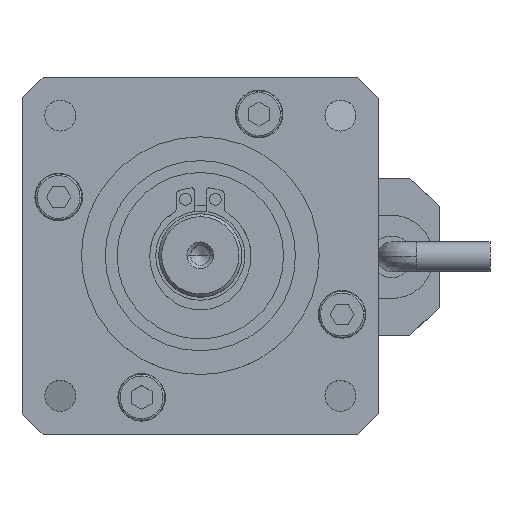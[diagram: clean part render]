
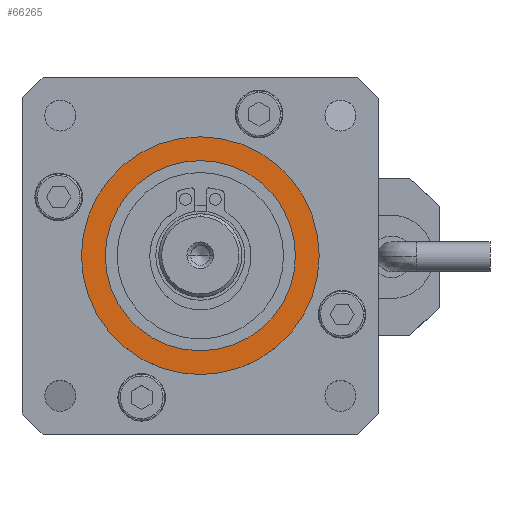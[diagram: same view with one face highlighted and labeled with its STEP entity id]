
A CAD part, top view. The second image highlights one B-rep face of the part: STEP entity #66265.
In plain terms, the highlighted planar face has unit normal (0, 0, 1).
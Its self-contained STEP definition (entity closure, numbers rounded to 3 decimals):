
#1289 = DIRECTION ( 'NONE',  ( -1., 0., 0. ) ) ;
#4294 = DIRECTION ( 'NONE',  ( 0., 0., 1. ) ) ;
#4646 = CARTESIAN_POINT ( 'NONE',  ( 0., 0., 10.5 ) ) ;
#5194 = EDGE_CURVE ( 'NONE', #38214, #66694, #83322, .T. ) ;
#6077 = FACE_OUTER_BOUND ( 'NONE', #50403, .T. ) ;
#7816 = EDGE_CURVE ( 'NONE', #66694, #38214, #62627, .T. ) ;
#18511 = AXIS2_PLACEMENT_3D ( 'NONE', #98924, #57614, #106542 ) ;
#24632 = VERTEX_POINT ( 'NONE', #106101 ) ;
#27833 = EDGE_CURVE ( 'NONE', #24632, #49673, #65195, .T. ) ;
#34590 = CARTESIAN_POINT ( 'NONE',  ( 0., 0., 10.5 ) ) ;
#35839 = DIRECTION ( 'NONE',  ( 0., 0., 1. ) ) ;
#36556 = DIRECTION ( 'NONE',  ( 1., 0., 0. ) ) ;
#38214 = VERTEX_POINT ( 'NONE', #81019 ) ;
#39572 = EDGE_CURVE ( 'NONE', #49673, #24632, #40964, .T. ) ;
#40964 = CIRCLE ( 'NONE', #41977, 20. ) ;
#41036 = PLANE ( 'NONE',  #18511 ) ;
#41977 = AXIS2_PLACEMENT_3D ( 'NONE', #34590, #58381, #1289 ) ;
#43607 = AXIS2_PLACEMENT_3D ( 'NONE', #103467, #35839, #36556 ) ;
#44833 = FACE_BOUND ( 'NONE', #103325, .T. ) ;
#45163 = AXIS2_PLACEMENT_3D ( 'NONE', #52622, #92830, #51194 ) ;
#49673 = VERTEX_POINT ( 'NONE', #51704 ) ;
#50036 = CARTESIAN_POINT ( 'NONE',  ( -16., 0., 10.5 ) ) ;
#50403 = EDGE_LOOP ( 'NONE', ( #78555, #83858 ) ) ;
#51194 = DIRECTION ( 'NONE',  ( 1., 0., 0. ) ) ;
#51704 = CARTESIAN_POINT ( 'NONE',  ( 20., 0., 10.5 ) ) ;
#52622 = CARTESIAN_POINT ( 'NONE',  ( 0., 0., 10.5 ) ) ;
#56556 = ORIENTED_EDGE ( 'NONE', *, *, #7816, .F. ) ;
#57614 = DIRECTION ( 'NONE',  ( 0., 0., 1. ) ) ;
#58381 = DIRECTION ( 'NONE',  ( 0., 0., 1. ) ) ;
#62627 = CIRCLE ( 'NONE', #45163, 16. ) ;
#65195 = CIRCLE ( 'NONE', #90912, 20. ) ;
#66265 = ADVANCED_FACE ( 'NONE', ( #44833, #6077 ), #41036, .T. ) ;
#66694 = VERTEX_POINT ( 'NONE', #50036 ) ;
#66886 = ORIENTED_EDGE ( 'NONE', *, *, #5194, .F. ) ;
#78555 = ORIENTED_EDGE ( 'NONE', *, *, #27833, .T. ) ;
#81019 = CARTESIAN_POINT ( 'NONE',  ( 16., 0., 10.5 ) ) ;
#83322 = CIRCLE ( 'NONE', #43607, 16. ) ;
#83858 = ORIENTED_EDGE ( 'NONE', *, *, #39572, .T. ) ;
#87816 = DIRECTION ( 'NONE',  ( -1., 0., 0. ) ) ;
#90912 = AXIS2_PLACEMENT_3D ( 'NONE', #4646, #4294, #87816 ) ;
#92830 = DIRECTION ( 'NONE',  ( 0., 0., 1. ) ) ;
#98924 = CARTESIAN_POINT ( 'NONE',  ( -20.24, -20.24, 10.5 ) ) ;
#103325 = EDGE_LOOP ( 'NONE', ( #66886, #56556 ) ) ;
#103467 = CARTESIAN_POINT ( 'NONE',  ( 0., 0., 10.5 ) ) ;
#106101 = CARTESIAN_POINT ( 'NONE',  ( -20., 0., 10.5 ) ) ;
#106542 = DIRECTION ( 'NONE',  ( 1., 0., 0. ) ) ;
